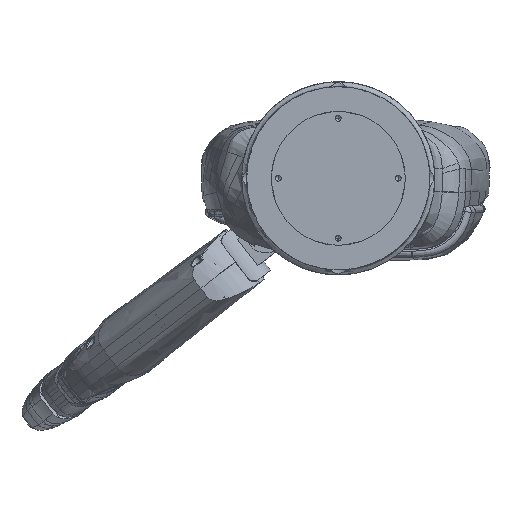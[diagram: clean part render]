
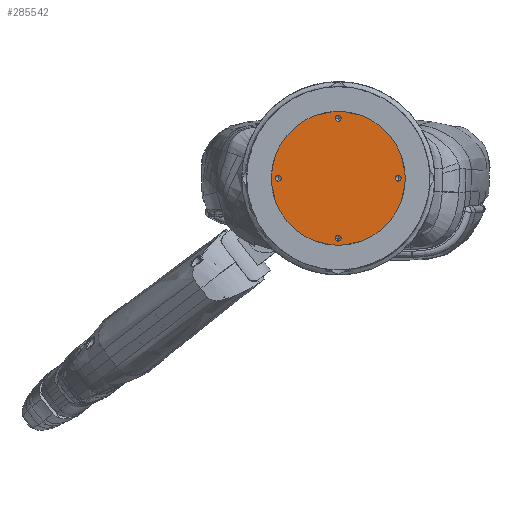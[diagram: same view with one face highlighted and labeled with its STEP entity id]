
A CAD part, front view. The second image highlights one B-rep face of the part: STEP entity #285542.
In plain terms, the highlighted planar face has unit normal (0, -1, 0).
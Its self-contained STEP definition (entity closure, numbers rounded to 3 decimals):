
#456 = ORIENTED_EDGE ( 'NONE', *, *, #307693, .T. ) ;
#6024 = AXIS2_PLACEMENT_3D ( 'NONE', #170975, #124531, #246291 ) ;
#8645 = DIRECTION ( 'NONE',  ( 0., -1., 0. ) ) ;
#8838 = FACE_BOUND ( 'NONE', #187442, .T. ) ;
#9563 = DIRECTION ( 'NONE',  ( 0., 1., 0. ) ) ;
#12087 = DIRECTION ( 'NONE',  ( 0., 0., 1. ) ) ;
#12958 = AXIS2_PLACEMENT_3D ( 'NONE', #67368, #267455, #91405 ) ;
#15941 = VERTEX_POINT ( 'NONE', #251985 ) ;
#23745 = FACE_BOUND ( 'NONE', #160906, .T. ) ;
#25025 = AXIS2_PLACEMENT_3D ( 'NONE', #162705, #257304, #263517 ) ;
#30296 = CIRCLE ( 'NONE', #168242, 0.8 ) ;
#31980 = ORIENTED_EDGE ( 'NONE', *, *, #173655, .T. ) ;
#41547 = ORIENTED_EDGE ( 'NONE', *, *, #289347, .T. ) ;
#52159 = EDGE_LOOP ( 'NONE', ( #145958, #273029 ) ) ;
#54526 = VERTEX_POINT ( 'NONE', #279618 ) ;
#56057 = ORIENTED_EDGE ( 'NONE', *, *, #154789, .T. ) ;
#56919 = AXIS2_PLACEMENT_3D ( 'NONE', #278551, #63778, #185462 ) ;
#63778 = DIRECTION ( 'NONE',  ( 0., 1., 0. ) ) ;
#67368 = CARTESIAN_POINT ( 'NONE',  ( -72.55, -41.1, 5.96 ) ) ;
#68637 = CIRCLE ( 'NONE', #252983, 0.8 ) ;
#71929 = CARTESIAN_POINT ( 'NONE',  ( -55.55, -41.1, 22.96 ) ) ;
#71941 = VERTEX_POINT ( 'NONE', #168928 ) ;
#76906 = DIRECTION ( 'NONE',  ( 1., 0., 0. ) ) ;
#78789 = EDGE_CURVE ( 'NONE', #273976, #291656, #143699, .T. ) ;
#80685 = ORIENTED_EDGE ( 'NONE', *, *, #262146, .T. ) ;
#80866 = PLANE ( 'NONE',  #6024 ) ;
#81599 = DIRECTION ( 'NONE',  ( 0., 0., 1. ) ) ;
#84572 = EDGE_CURVE ( 'NONE', #273678, #260763, #212894, .T. ) ;
#86971 = DIRECTION ( 'NONE',  ( 1., 0., 0. ) ) ;
#89533 = CARTESIAN_POINT ( 'NONE',  ( -55.55, -41.1, -11.04 ) ) ;
#91405 = DIRECTION ( 'NONE',  ( 1., 0., 0. ) ) ;
#96000 = CARTESIAN_POINT ( 'NONE',  ( -38.55, -41.1, 5.96 ) ) ;
#96677 = CARTESIAN_POINT ( 'NONE',  ( -55.55, -41.1, 23.76 ) ) ;
#102211 = AXIS2_PLACEMENT_3D ( 'NONE', #123350, #315613, #76906 ) ;
#102329 = DIRECTION ( 'NONE',  ( 1., 0., 0. ) ) ;
#113685 = CIRCLE ( 'NONE', #118677, 19. ) ;
#114330 = EDGE_CURVE ( 'NONE', #260763, #273678, #240333, .T. ) ;
#117901 = CARTESIAN_POINT ( 'NONE',  ( -36.55, -41.1, 5.96 ) ) ;
#118677 = AXIS2_PLACEMENT_3D ( 'NONE', #131856, #8645, #86971 ) ;
#123350 = CARTESIAN_POINT ( 'NONE',  ( -72.55, -41.1, 5.96 ) ) ;
#123862 = AXIS2_PLACEMENT_3D ( 'NONE', #155207, #9563, #81599 ) ;
#124531 = DIRECTION ( 'NONE',  ( 0., -1., 0. ) ) ;
#131856 = CARTESIAN_POINT ( 'NONE',  ( -55.55, -41.1, 5.96 ) ) ;
#143699 = CIRCLE ( 'NONE', #56919, 0.8 ) ;
#144672 = ORIENTED_EDGE ( 'NONE', *, *, #202209, .T. ) ;
#145958 = ORIENTED_EDGE ( 'NONE', *, *, #114330, .T. ) ;
#154789 = EDGE_CURVE ( 'NONE', #228758, #252919, #113685, .T. ) ;
#155207 = CARTESIAN_POINT ( 'NONE',  ( -55.55, -41.1, -11.04 ) ) ;
#160906 = EDGE_LOOP ( 'NONE', ( #237623, #144672 ) ) ;
#162705 = CARTESIAN_POINT ( 'NONE',  ( -55.55, -41.1, 5.96 ) ) ;
#168242 = AXIS2_PLACEMENT_3D ( 'NONE', #233005, #229855, #12087 ) ;
#168928 = CARTESIAN_POINT ( 'NONE',  ( -55.55, -41.1, 22.16 ) ) ;
#170975 = CARTESIAN_POINT ( 'NONE',  ( -77.25, -41.1, 5.96 ) ) ;
#173655 = EDGE_CURVE ( 'NONE', #54526, #15941, #237822, .T. ) ;
#180322 = AXIS2_PLACEMENT_3D ( 'NONE', #96000, #243384, #102329 ) ;
#184036 = DIRECTION ( 'NONE',  ( 0., 0., 1. ) ) ;
#185462 = DIRECTION ( 'NONE',  ( 1., 0., 0. ) ) ;
#187442 = EDGE_LOOP ( 'NONE', ( #41547, #31980 ) ) ;
#193405 = FACE_OUTER_BOUND ( 'NONE', #275194, .T. ) ;
#199257 = ORIENTED_EDGE ( 'NONE', *, *, #270730, .T. ) ;
#202209 = EDGE_CURVE ( 'NONE', #291656, #273976, #215920, .T. ) ;
#212894 = CIRCLE ( 'NONE', #12958, 0.8 ) ;
#215920 = CIRCLE ( 'NONE', #180322, 0.8 ) ;
#217427 = FACE_BOUND ( 'NONE', #52159, .T. ) ;
#219210 = DIRECTION ( 'NONE',  ( 0., 1., 0. ) ) ;
#223203 = VERTEX_POINT ( 'NONE', #96677 ) ;
#228758 = VERTEX_POINT ( 'NONE', #232740 ) ;
#229855 = DIRECTION ( 'NONE',  ( 0., 1., 0. ) ) ;
#232740 = CARTESIAN_POINT ( 'NONE',  ( -74.55, -41.1, 5.96 ) ) ;
#233005 = CARTESIAN_POINT ( 'NONE',  ( -55.55, -41.1, 22.96 ) ) ;
#235916 = CARTESIAN_POINT ( 'NONE',  ( -71.75, -41.1, 5.96 ) ) ;
#237623 = ORIENTED_EDGE ( 'NONE', *, *, #78789, .T. ) ;
#237822 = CIRCLE ( 'NONE', #278814, 0.8 ) ;
#240333 = CIRCLE ( 'NONE', #102211, 0.8 ) ;
#243384 = DIRECTION ( 'NONE',  ( 0., 1., 0. ) ) ;
#246291 = DIRECTION ( 'NONE',  ( 1., 0., 0. ) ) ;
#251985 = CARTESIAN_POINT ( 'NONE',  ( -55.55, -41.1, -10.24 ) ) ;
#252919 = VERTEX_POINT ( 'NONE', #117901 ) ;
#252983 = AXIS2_PLACEMENT_3D ( 'NONE', #71929, #219210, #315378 ) ;
#253057 = DIRECTION ( 'NONE',  ( 0., 1., 0. ) ) ;
#257304 = DIRECTION ( 'NONE',  ( 0., -1., 0. ) ) ;
#260467 = EDGE_LOOP ( 'NONE', ( #199257, #456 ) ) ;
#260763 = VERTEX_POINT ( 'NONE', #235916 ) ;
#261965 = CIRCLE ( 'NONE', #123862, 0.8 ) ;
#262146 = EDGE_CURVE ( 'NONE', #252919, #228758, #265224, .T. ) ;
#263517 = DIRECTION ( 'NONE',  ( 1., 0., 0. ) ) ;
#263567 = CARTESIAN_POINT ( 'NONE',  ( -73.35, -41.1, 5.96 ) ) ;
#265224 = CIRCLE ( 'NONE', #25025, 19. ) ;
#267119 = FACE_BOUND ( 'NONE', #260467, .T. ) ;
#267455 = DIRECTION ( 'NONE',  ( 0., 1., 0. ) ) ;
#270730 = EDGE_CURVE ( 'NONE', #223203, #71941, #30296, .T. ) ;
#273029 = ORIENTED_EDGE ( 'NONE', *, *, #84572, .T. ) ;
#273678 = VERTEX_POINT ( 'NONE', #263567 ) ;
#273976 = VERTEX_POINT ( 'NONE', #283799 ) ;
#275194 = EDGE_LOOP ( 'NONE', ( #80685, #56057 ) ) ;
#278551 = CARTESIAN_POINT ( 'NONE',  ( -38.55, -41.1, 5.96 ) ) ;
#278814 = AXIS2_PLACEMENT_3D ( 'NONE', #89533, #253057, #184036 ) ;
#279618 = CARTESIAN_POINT ( 'NONE',  ( -55.55, -41.1, -11.84 ) ) ;
#283799 = CARTESIAN_POINT ( 'NONE',  ( -37.75, -41.1, 5.96 ) ) ;
#285542 = ADVANCED_FACE ( 'NONE', ( #8838, #23745, #267119, #217427, #193405 ), #80866, .T. ) ;
#289347 = EDGE_CURVE ( 'NONE', #15941, #54526, #261965, .T. ) ;
#291656 = VERTEX_POINT ( 'NONE', #311382 ) ;
#307693 = EDGE_CURVE ( 'NONE', #71941, #223203, #68637, .T. ) ;
#311382 = CARTESIAN_POINT ( 'NONE',  ( -39.35, -41.1, 5.96 ) ) ;
#315378 = DIRECTION ( 'NONE',  ( 0., 0., 1. ) ) ;
#315613 = DIRECTION ( 'NONE',  ( 0., 1., 0. ) ) ;
